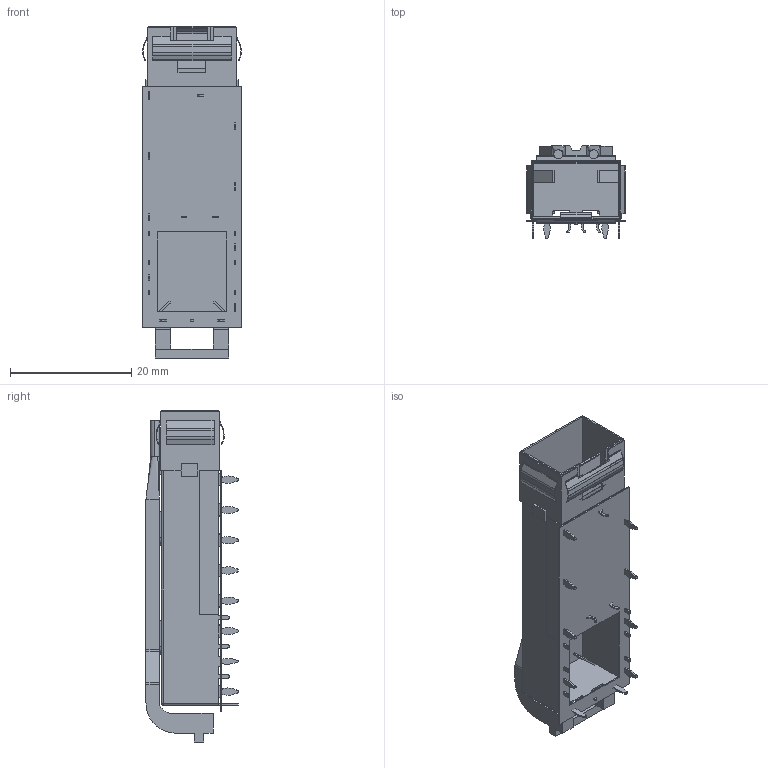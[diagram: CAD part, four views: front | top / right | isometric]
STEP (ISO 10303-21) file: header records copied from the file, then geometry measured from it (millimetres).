
FILE_DESCRIPTION (( 'STEP AP203' ), '1' );
FILE_NAME ('SFP28 1X1短鱼眼 有月牙 导光柱10.87（3D-20220823）.STEP', '2022-08-23T09:38:26', ( '桑三博客' ), ( 'Www.SangSan.Cn' ), 'SwSTEP 2.0', 'SolidWorks 2018', '' );
FILE_SCHEMA (( 'CONFIG_CONTROL_DESIGN' ));
Length unit declared in the file: millimetre
Products named in the file (3): SFP+ 1X1 压接脚_有月牙 带吸波片; 单层导光柱-直进直斜出-11.55_常规款对外; SFP28 1X1短鱼眼 有月牙 导光柱10.87（3D-20220823）
Assembly tree (2 placements, depth 2):
  SFP28 1X1短鱼眼 有月牙 导光柱10.87（3D-20220823）
    SFP+ 1X1 压接脚_有月牙 带吸波片
    单层导光柱-直进直斜出-11.55_常规款对外
Bounding box: 16.5 x 15.22 x 54.82 mm (x, y, z)
Volume: 1420.4 mm3; surface area: 7162.3 mm2
Topology: 3 solids, 3 shells, 574 faces, 1731 edges, 1162 vertices
Faces by surface type: plane 327, cylinder 237, bspline 8, sphere 2
Entity records: 19970 total; most frequent: CARTESIAN_POINT 3622, ORIENTED_EDGE 3458, DIRECTION 3353, EDGE_CURVE 1729, LINE 1247, VECTOR 1247, VERTEX_POINT 1162, AXIS2_PLACEMENT_3D 1053
